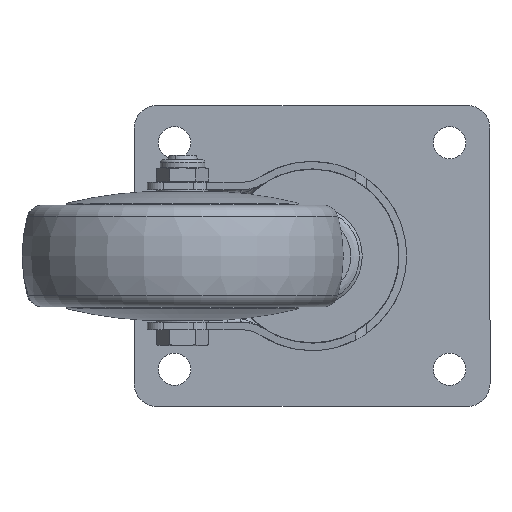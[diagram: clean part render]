
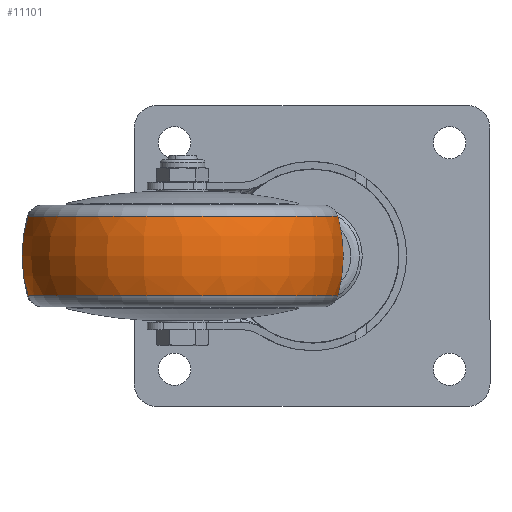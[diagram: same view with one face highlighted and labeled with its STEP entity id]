
A CAD part, front view. The second image highlights one B-rep face of the part: STEP entity #11101.
In plain terms, the highlighted toroidal (fillet/blend) face has major radius 9.765 mm and minor radius 40.235 mm.
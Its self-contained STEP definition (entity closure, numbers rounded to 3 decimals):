
#71 = DIRECTION ( 'NONE',  ( 0., 0., -1. ) ) ;
#126 = CARTESIAN_POINT ( 'NONE',  ( 12.275, 0., 0. ) ) ;
#565 = VERTEX_POINT ( 'NONE', #1289 ) ;
#1113 = ORIENTED_EDGE ( 'NONE', *, *, #5636, .T. ) ;
#1286 = EDGE_CURVE ( 'NONE', #2764, #565, #5135, .T. ) ;
#1289 = CARTESIAN_POINT ( 'NONE',  ( 12.275, 0., 48.082 ) ) ;
#1802 = CIRCLE ( 'NONE', #2198, 48.082 ) ;
#1909 = ORIENTED_EDGE ( 'NONE', *, *, #11956, .T. ) ;
#1974 = DIRECTION ( 'NONE',  ( 1., 0., 0. ) ) ;
#1984 = CARTESIAN_POINT ( 'NONE',  ( -12.275, 0., 0. ) ) ;
#2050 = DIRECTION ( 'NONE',  ( 1., 0., 0. ) ) ;
#2198 = AXIS2_PLACEMENT_3D ( 'NONE', #126, #11268, #71 ) ;
#2764 = VERTEX_POINT ( 'NONE', #8706 ) ;
#3203 = AXIS2_PLACEMENT_3D ( 'NONE', #1984, #2050, #4943 ) ;
#3997 = DIRECTION ( 'NONE',  ( 0., 1., 0. ) ) ;
#4556 = AXIS2_PLACEMENT_3D ( 'NONE', #10409, #1974, #5738 ) ;
#4943 = DIRECTION ( 'NONE',  ( 0., 0., -1. ) ) ;
#5135 = CIRCLE ( 'NONE', #6712, 40.235 ) ;
#5636 = EDGE_CURVE ( 'NONE', #2764, #11932, #10274, .T. ) ;
#5738 = DIRECTION ( 'NONE',  ( 0., 0., -1. ) ) ;
#5757 = ORIENTED_EDGE ( 'NONE', *, *, #5988, .F. ) ;
#5826 = CARTESIAN_POINT ( 'NONE',  ( -12.275, 0., -48.082 ) ) ;
#5834 = EDGE_LOOP ( 'NONE', ( #10871, #1113, #1909, #5757 ) ) ;
#5988 = EDGE_CURVE ( 'NONE', #565, #10447, #1802, .T. ) ;
#6244 = CIRCLE ( 'NONE', #12144, 40.235 ) ;
#6702 = TOROIDAL_SURFACE ( 'NONE', #4556, 9.765, 40.235 ) ;
#6712 = AXIS2_PLACEMENT_3D ( 'NONE', #8596, #3997, #9530 ) ;
#6972 = DIRECTION ( 'NONE',  ( 0., 0., -1. ) ) ;
#7149 = DIRECTION ( 'NONE',  ( 0., -1., 0. ) ) ;
#7991 = CARTESIAN_POINT ( 'NONE',  ( 0., 0., -9.765 ) ) ;
#8596 = CARTESIAN_POINT ( 'NONE',  ( 0., 0., 9.765 ) ) ;
#8706 = CARTESIAN_POINT ( 'NONE',  ( -12.275, 0., 48.082 ) ) ;
#8875 = CARTESIAN_POINT ( 'NONE',  ( 12.275, 0., -48.082 ) ) ;
#9416 = FACE_OUTER_BOUND ( 'NONE', #5834, .T. ) ;
#9530 = DIRECTION ( 'NONE',  ( 0., 0., 1. ) ) ;
#10274 = CIRCLE ( 'NONE', #3203, 48.082 ) ;
#10409 = CARTESIAN_POINT ( 'NONE',  ( 0., 0., 0. ) ) ;
#10447 = VERTEX_POINT ( 'NONE', #8875 ) ;
#10871 = ORIENTED_EDGE ( 'NONE', *, *, #1286, .F. ) ;
#11101 = ADVANCED_FACE ( 'NONE', ( #9416 ), #6702, .T. ) ;
#11268 = DIRECTION ( 'NONE',  ( 1., 0., 0. ) ) ;
#11932 = VERTEX_POINT ( 'NONE', #5826 ) ;
#11956 = EDGE_CURVE ( 'NONE', #11932, #10447, #6244, .T. ) ;
#12144 = AXIS2_PLACEMENT_3D ( 'NONE', #7991, #7149, #6972 ) ;
